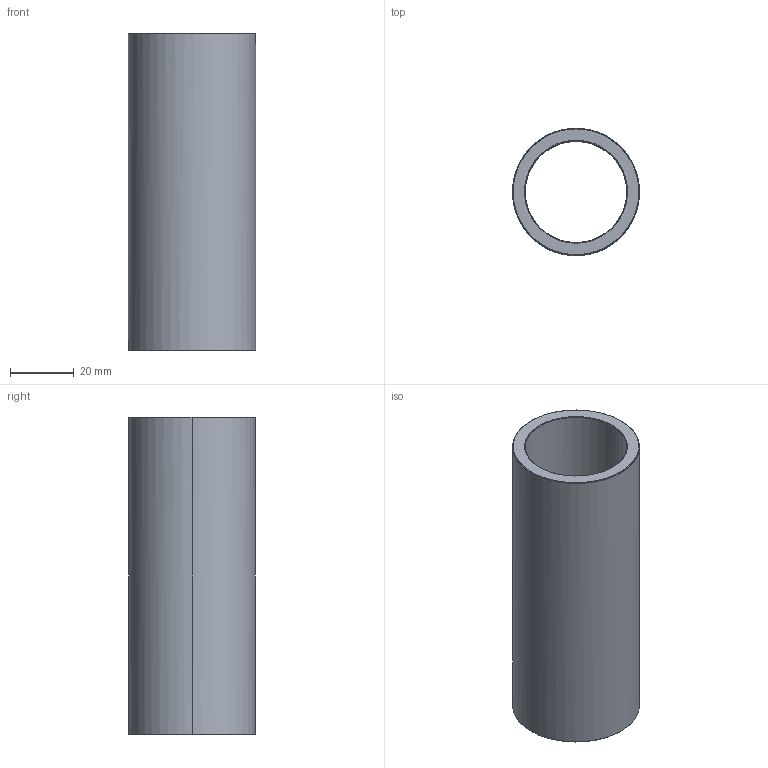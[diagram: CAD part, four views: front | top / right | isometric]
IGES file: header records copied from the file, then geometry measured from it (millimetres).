
Start section: Write IGES format                                    datakit 2008 (c)
Global section: file name: Unknown; native system: DATAKIT Converter; preprocessor: Unknown; author: Unknown; organization: Unknown; date: 950613.180003; units: millimetre
Bounding box: 40 x 39.97 x 100 mm (x, y, z)
Surface area: 23471.2 mm2 (no closed solid volume)
Topology: 0 solids, 0 shells, 14 faces, 56 edges, 56 vertices
Faces by surface type: revolution 12, bspline 2
